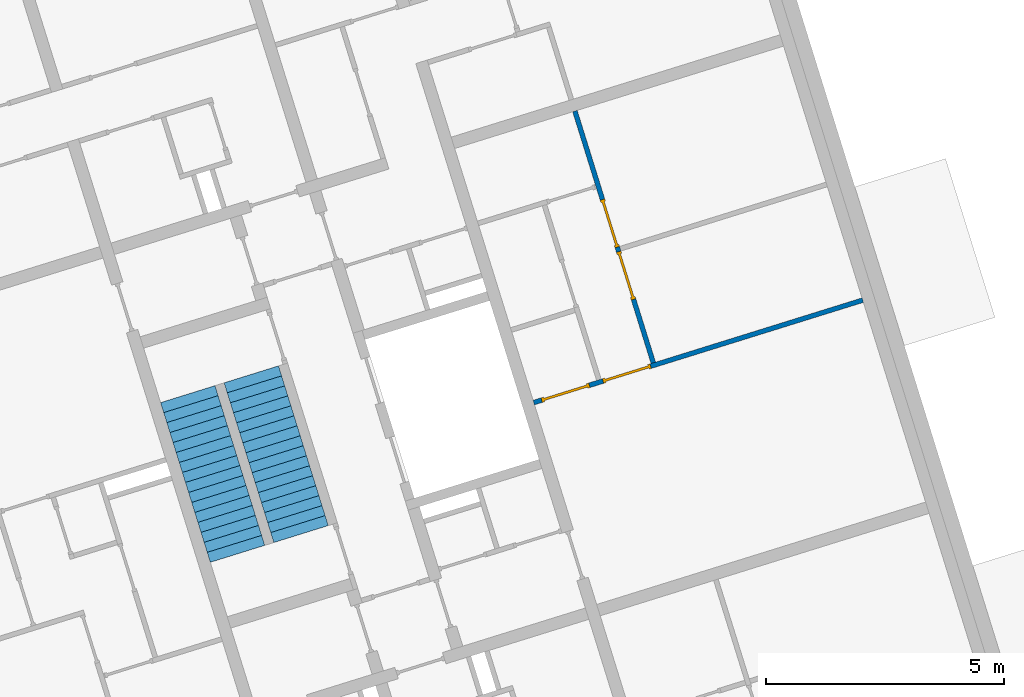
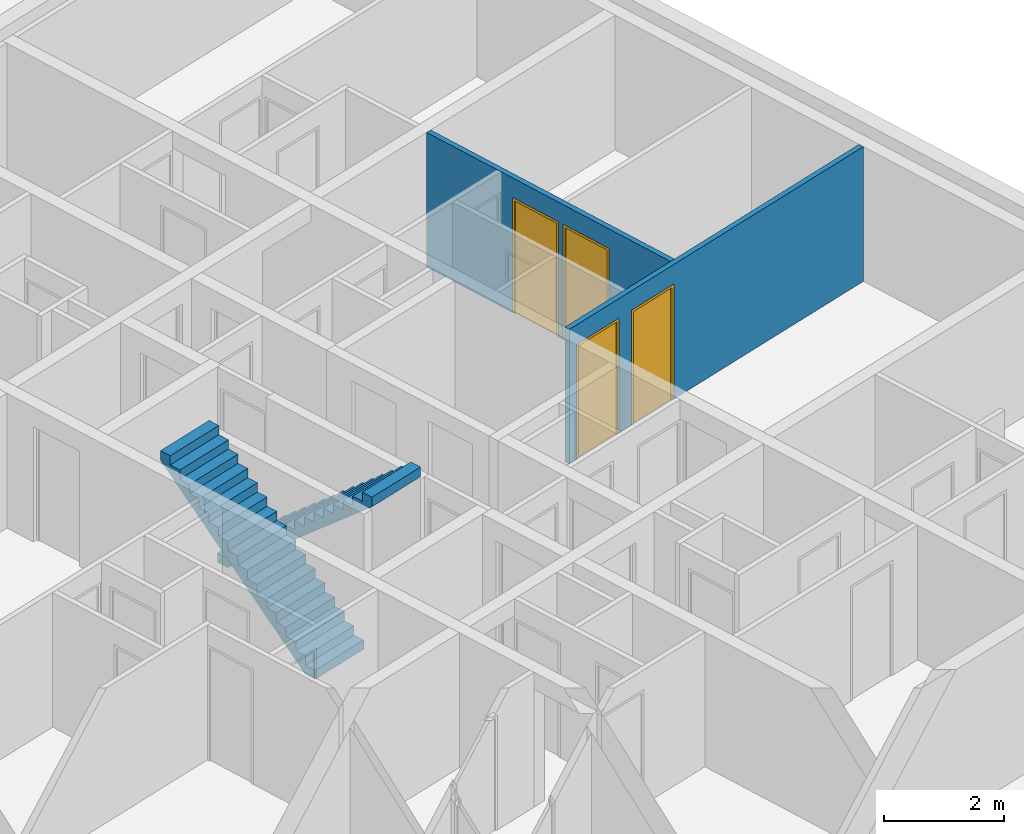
# One storey, part 9 of 9: 4 doors, 2 stair flights, 2 walls, 4 openings, 2 elements without a shape of their own.
"""IFC4 building model written with IfcOpenShell, lengths in metres."""

from ifc_helpers import new_model, entity, si_unit, converted_unit, direction, frame, origin, place, context, subcontext, project, spatial, indexed_curve, outline, extrude, polygons, source, transform, mapped, material, constituent, constituent_set, type_object, type_shapes, element, fill, aggregate, save


model = new_model("IFC4")

# Units and contexts
model_context = context("Model", 3, precision=1e-05, world=origin(), true_north=direction((6.12323399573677e-17, 1.0)))
body_context = subcontext(model_context, "Body", "Model", "MODEL_VIEW")
ifc_project = project(units=[si_unit("LENGTHUNIT", "METRE"), si_unit("AREAUNIT", "SQUARE_METRE"), converted_unit("PLANEANGLEUNIT", "DEGREE", entity("IfcPlaneAngleMeasure", 0.0174532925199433), si_unit("PLANEANGLEUNIT", "RADIAN"), dimensions=[0, 0, 0, 0, 0, 0, 0]), si_unit("VOLUMEUNIT", "CUBIC_METRE")], contexts=[model_context])

# Site, building, storey
site_placement = place(None, frame((13.1347999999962, 11.9886000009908, 0.0), z_axis=(0.0, 0.0, 1.0), x_axis=(0.954770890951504, 0.297342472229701, 0.0)))
site = spatial("IfcSite", under=ifc_project, at=site_placement, Name="Schiehaven", CompositionType="ELEMENT")
building_placement = place(site_placement, origin())
building = spatial("IfcBuilding", under=site, at=building_placement, Name="VORM huis", CompositionType="ELEMENT")
storey_placement = place(building_placement, frame((0.0, 0.0, 6.9)))
storey = spatial("IfcBuildingStorey", under=building, at=storey_placement, Name="02 tweede verdieping", CompositionType="ELEMENT", Elevation=6.9)

# Wall, openings, doors
ifc_material_1 = material(Name="ntb_ntb_ntb", Category="Miscellaneous")
wall_type = type_object("IfcWallType", Name="Basic Wall:22_WA_afbouw_binnenwand 100mm_gen", PredefinedType="STANDARD")
wall_1_placement = place(storey_placement, frame((72.6228357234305, 16.4749999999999, 0.0)))
wall_1 = element("IfcWall", 1, at=wall_1_placement, inside=storey, type_object=wall_type, material=ifc_material_1, Name="Binnenwand", ObjectType="Wand", PredefinedType="NOTDEFINED", context=body_context, shape_type="Tessellation", body=[
    polygons([(-3.00038679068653e-15, -0.0499999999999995, 1.08286712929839e-15), (0.176082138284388, -0.0499999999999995, 1.08286712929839e-15), (0.176082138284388, -0.0499999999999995, 2.34999999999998), (1.22608213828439, -0.0499999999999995, 2.34999999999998), (1.22608213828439, -0.0499999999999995, 1.08286712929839e-15), (1.52716427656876, -0.0499999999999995, 1.08286712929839e-15), (1.52716427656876, -0.0499999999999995, 2.34999999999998), (2.57716427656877, -0.0499999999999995, 2.34999999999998), (2.57716427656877, -0.0499999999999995, 1.08286712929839e-15), (7.25216427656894, -0.0499999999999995, 1.08286712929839e-15), (7.25216427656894, -0.0499999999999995, 2.75), (-3.00038679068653e-15, -0.0499999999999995, 2.75), (0.176082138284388, 0.0499999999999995, 2.34999999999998), (0.176082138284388, 0.0499999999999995, 1.08286712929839e-15), (-2.70219966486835e-15, 0.0499999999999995, 1.08286712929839e-15), (-2.70219966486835e-15, 0.0499999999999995, 2.75), (1.40216427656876, 0.0499999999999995, 2.75), (1.50216427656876, 0.0499999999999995, 2.75), (2.60216427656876, 0.0499999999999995, 2.75), (2.70216427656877, 0.0499999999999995, 2.75), (7.25216427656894, 0.0499999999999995, 2.75), (7.25216427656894, 0.0499999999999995, 1.08286712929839e-15), (2.70216427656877, 0.0499999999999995, 0.0), (2.60216427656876, 0.0499999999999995, 0.0), (2.57716427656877, 0.0499999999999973, 1.08286712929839e-15), (2.57716427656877, 0.0499999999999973, 2.34999999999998), (1.52716427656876, 0.0499999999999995, 2.34999999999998), (1.52716427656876, 0.0499999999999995, 1.08286712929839e-15), (1.50216427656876, 0.0499999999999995, 0.0), (1.40216427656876, 0.0499999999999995, 0.0), (1.22608213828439, 0.0499999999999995, 1.08286712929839e-15), (1.22608213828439, 0.0499999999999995, 2.34999999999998)], [[[1, 2, 3, 4, 5, 6, 7, 8, 9, 10, 11, 12]], [[13, 14, 15, 16, 17, 18, 19, 20, 21, 22, 23, 24, 25, 26, 27, 28, 29, 30, 31, 32]], [[15, 14, 2, 1]], [[11, 10, 22, 21]], [[12, 11, 21, 20, 19, 18, 17, 16]], [[1, 12, 16, 15]], [[9, 8, 26, 25]], [[7, 6, 28, 27]], [[8, 7, 27, 26]], [[5, 4, 32, 31]], [[3, 2, 14, 13]], [[4, 3, 13, 32]], [[31, 30, 29, 28, 6, 5]], [[25, 24, 23, 22, 10, 9]]], closed=True),
])
opening_1_placement = place(wall_1_placement, frame((2.57716427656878, 0.0500000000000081, 0.0)))
opening_1 = element("IfcOpeningElement", 2, at=opening_1_placement, cuts=wall_1, Name="Binnendeur", PredefinedType="OPENING", context=body_context, shape_type="SweptSolid", body=[
    extrude(outline(indexed_curve([(2.34999999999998, 0.0), (2.34999999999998, 1.05), (0.0, 1.05), (0.0, 0.0), (2.34999999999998, 0.0)], self_intersect=False)), frame((0.0, 0.0, 0.0), z_axis=(0.0, -1.0, 0.0), x_axis=(0.0, 0.0, 1.0)), (0.0, 0.0, 1.0), 0.1),
])
opening_2_placement = place(wall_1_placement, frame((1.22608213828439, 0.0500000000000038, 0.0)))
opening_2 = element("IfcOpeningElement", 3, at=opening_2_placement, cuts=wall_1, Name="Binnendeur", PredefinedType="OPENING", context=body_context, shape_type="SweptSolid", body=[
    extrude(outline(indexed_curve([(2.34999999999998, 0.0), (2.34999999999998, 1.05), (0.0, 1.05), (0.0, 0.0), (2.34999999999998, 0.0)], self_intersect=False)), frame((0.0, 0.0, 0.0), z_axis=(0.0, -1.0, 0.0), x_axis=(0.0, 0.0, 1.0)), (0.0, 0.0, 1.0), 0.1),
])
ifc_material_2 = material(Name="PD_a_binnenwandopeningen", Category="Miscellaneous")
ifc_constituent_1 = constituent(ifc_material_2, Name="PD_a_binnenwandopeningen", Category="Miscellaneous")
ifc_material_3 = material(Name="metaal_aluminium_ntb", Category="Miscellaneous")
ifc_constituent_2 = constituent(ifc_material_3, Name="metaal_aluminium_ntb", Category="Miscellaneous")
ifc_constituent_set_1 = constituent_set(constituents=[ifc_constituent_1, ifc_constituent_2])
ifc_constituent_3 = constituent(ifc_material_2, Name="PD_a_binnenwandopeningen", Category="Miscellaneous")
ifc_constituent_4 = constituent(ifc_material_3, Name="Panel", Category="Miscellaneous")
ifc_constituent_set_2 = constituent_set(constituents=[ifc_constituent_3, ifc_constituent_4])
door_type = type_object("IfcDoorType", Name="32_DO_binnendeur enkel:binnendeur", OperationType="REVOLVING", PredefinedType="DOOR", material=ifc_constituent_set_2)
shared_shape = source(origin(), body_context, "Body", "SweptSolid", [
    extrude(outline(indexed_curve([(0.475, -1.16249999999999), (0.525, -1.16249999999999), (0.525, 1.18749999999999), (-0.525, 1.18749999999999), (-0.525, -1.16249999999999), (-0.475, -1.16249999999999), (-0.475, 1.13749999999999), (0.475, 1.13749999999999), (0.475, -1.16249999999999)], self_intersect=False)), frame((0.525000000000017, 0.100000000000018, 1.16249999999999), z_axis=(0.0, -1.0, 0.0), x_axis=(1.0, 0.0, 0.0)), (0.0, 0.0, 1.0), 0.1),
    extrude(outline(indexed_curve([(-0.475, -0.025), (0.475, -0.025), (0.475, 0.025), (-0.475, 0.025), (-0.475, -0.025)], self_intersect=False)), frame((0.525000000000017, 0.0499999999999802, 0.0)), (0.0, 0.0, 1.0), 2.29999999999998),
])
type_shapes(door_type, [shared_shape])
door_1_placement = place(opening_1_placement, frame((0.0, 0.0, 0.0), z_axis=(0.0, 0.0, 1.0), x_axis=(-1.0, 0.0, 0.0)))
door_1 = element("IfcDoor", 4, at=door_1_placement, inside=storey, type_object=door_type, material=ifc_constituent_set_1, Name="Binnendeur", ObjectType="Deur", OperationType="REVOLVING", OverallHeight=2.34999999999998, OverallWidth=1.05, PredefinedType="DOOR", context=body_context, shape_type="MappedRepresentation", body=[
    mapped(shared_shape, transform((0.0, 0.0, 0.0), scale=1.0)),
])
fill(opening_1, door_1)
ifc_constituent_5 = constituent(ifc_material_2, Name="PD_a_binnenwandopeningen", Category="Miscellaneous")
ifc_constituent_6 = constituent(ifc_material_3, Name="metaal_aluminium_ntb", Category="Miscellaneous")
ifc_constituent_set_3 = constituent_set(constituents=[ifc_constituent_5, ifc_constituent_6])
door_2_placement = place(opening_2_placement, frame((0.0, 0.0, 0.0), z_axis=(0.0, 0.0, 1.0), x_axis=(-1.0, 0.0, 0.0)))
door_2 = element("IfcDoor", 5, at=door_2_placement, inside=storey, type_object=door_type, material=ifc_constituent_set_3, Name="Binnendeur", ObjectType="Deur", OperationType="REVOLVING", OverallHeight=2.34999999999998, OverallWidth=1.05, PredefinedType="DOOR", context=body_context, shape_type="MappedRepresentation", body=[
    mapped(shared_shape, transform((0.0, 0.0, 0.0), scale=1.0)),
])
fill(opening_2, door_2)

wall_2_placement = place(storey_placement, frame((75.2749999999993, 22.075, 0.0), z_axis=(0.0, 0.0, 1.0), x_axis=(0.0, -1.0, 0.0)))
wall_2 = element("IfcWall", 6, at=wall_2_placement, inside=storey, type_object=wall_type, material=ifc_material_1, Name="Binnenwand", ObjectType="Wand", PredefinedType="NOTDEFINED", context=body_context, shape_type="Tessellation", body=[
    polygons([(3.00000000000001, -0.0500000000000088, 1.08286712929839e-15), (3.10000000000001, -0.0500000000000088, 1.08286712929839e-15), (3.10000000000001, -0.0500000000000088, 2.34999999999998), (4.15000000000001, -0.0500000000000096, 2.34999999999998), (4.15000000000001, -0.0500000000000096, 1.08286712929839e-15), (5.55000000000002, -0.0500000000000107, 1.08286712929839e-15), (5.55000000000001, -0.0500000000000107, 2.75), (1.70000000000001, -0.0500000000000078, 2.75), (1.60000000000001, -0.0500000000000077, 2.75), (0.0, -0.0500000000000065, 2.75), (0.0, -0.0500000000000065, 1.08286712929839e-15), (1.60000000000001, -0.0500000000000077, 0.0), (1.70000000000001, -0.0500000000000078, 0.0), (1.95, -0.050000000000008, 1.08286712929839e-15), (1.95000000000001, -0.050000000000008, 2.34999999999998), (3.00000000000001, -0.0500000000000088, 2.34999999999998), (3.10000000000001, 0.0500000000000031, 2.34999999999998), (3.10000000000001, 0.0500000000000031, 1.08286712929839e-15), (3.00000000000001, 0.0500000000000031, 1.08286712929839e-15), (3.00000000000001, 0.0500000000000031, 2.34999999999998), (1.95000000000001, 0.0500000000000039, 2.34999999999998), (1.95, 0.0500000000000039, 1.08286712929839e-15), (0.0, 0.0500000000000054, 1.08286712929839e-15), (0.0, 0.0500000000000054, 2.75), (3.00000000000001, 0.0499999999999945, 2.75), (3.10000000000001, 0.0499999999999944, 2.75), (5.55000000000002, 0.0500000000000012, 2.75), (5.55000000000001, 0.0500000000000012, 1.08286712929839e-15), (4.15000000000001, 0.0500000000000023, 1.08286712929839e-15), (4.15000000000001, 0.0500000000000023, 2.34999999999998)], [[[1, 2, 3, 4, 5, 6, 7, 8, 9, 10, 11, 12, 13, 14, 15, 16]], [[17, 18, 19, 20, 21, 22, 23, 24, 25, 26, 27, 28, 29, 30]], [[11, 23, 22, 14, 13, 12]], [[10, 9, 8, 7, 27, 26, 25, 24]], [[11, 10, 24, 23]], [[16, 20, 19, 1]], [[21, 15, 14, 22]], [[20, 16, 15, 21]], [[7, 6, 28, 27]], [[5, 4, 30, 29]], [[3, 2, 18, 17]], [[4, 3, 17, 30]], [[19, 18, 2, 1]], [[29, 28, 6, 5]]], closed=True),
])
opening_3_placement = place(wall_2_placement, frame((3.0, 0.0500000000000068, 0.0)))
opening_3 = element("IfcOpeningElement", 7, at=opening_3_placement, cuts=wall_2, Name="Binnendeur", PredefinedType="OPENING", context=body_context, shape_type="SweptSolid", body=[
    extrude(outline(indexed_curve([(2.34999999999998, 6.11348705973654e-31), (2.34999999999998, 1.05), (0.0, 1.05), (0.0, 6.11348705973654e-31), (2.34999999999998, 6.11348705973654e-31)], self_intersect=False)), frame((0.0, 0.0, 0.0), z_axis=(0.0, -1.0, 0.0), x_axis=(0.0, 0.0, 1.0)), (0.0, 0.0, 1.0), 0.1),
])
opening_4_placement = place(wall_2_placement, frame((4.15000000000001, 0.0500000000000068, 0.0)))
opening_4 = element("IfcOpeningElement", 8, at=opening_4_placement, cuts=wall_2, Name="Binnendeur", PredefinedType="OPENING", context=body_context, shape_type="SweptSolid", body=[
    extrude(outline(indexed_curve([(2.34999999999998, 1.08286712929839e-15), (2.34999999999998, 1.05), (0.0, 1.05), (0.0, 1.08286712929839e-15), (2.34999999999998, 1.08286712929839e-15)], self_intersect=False)), frame((0.0, 0.0, 0.0), z_axis=(0.0, -1.0, 0.0), x_axis=(0.0, 0.0, 1.0)), (0.0, 0.0, 1.0), 0.1),
])
ifc_constituent_7 = constituent(ifc_material_2, Name="PD_a_binnenwandopeningen", Category="Miscellaneous")
ifc_constituent_8 = constituent(ifc_material_3, Name="metaal_aluminium_ntb", Category="Miscellaneous")
ifc_constituent_set_4 = constituent_set(constituents=[ifc_constituent_7, ifc_constituent_8])
door_3_placement = place(opening_3_placement, frame((0.0, 0.0, 0.0), z_axis=(0.0, 0.0, 1.0), x_axis=(-1.0, 0.0, 0.0)))
door_3 = element("IfcDoor", 9, at=door_3_placement, inside=storey, type_object=door_type, material=ifc_constituent_set_4, Name="Binnendeur", ObjectType="Deur", OperationType="REVOLVING", OverallHeight=2.34999999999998, OverallWidth=1.05, PredefinedType="DOOR", context=body_context, shape_type="MappedRepresentation", body=[
    mapped(shared_shape, transform((0.0, 0.0, 0.0), scale=1.0)),
])
fill(opening_3, door_3)
ifc_constituent_9 = constituent(ifc_material_2, Name="PD_a_binnenwandopeningen", Category="Miscellaneous")
ifc_constituent_10 = constituent(ifc_material_3, Name="metaal_aluminium_ntb", Category="Miscellaneous")
ifc_constituent_set_5 = constituent_set(constituents=[ifc_constituent_9, ifc_constituent_10])
door_4_placement = place(opening_4_placement, frame((0.0, 0.0, 0.0), z_axis=(0.0, 0.0, 1.0), x_axis=(-1.0, 0.0, 0.0)))
door_4 = element("IfcDoor", 10, at=door_4_placement, inside=storey, type_object=door_type, material=ifc_constituent_set_5, Name="Binnendeur", ObjectType="Deur", OperationType="REVOLVING", OverallHeight=2.34999999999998, OverallWidth=1.05, PredefinedType="DOOR", context=body_context, shape_type="MappedRepresentation", body=[
    mapped(shared_shape, transform((0.0, 0.0, 0.0), scale=1.0)),
])
fill(opening_4, door_4)

# Stair, stair flight
stair_type = type_object("IfcStairType", Name="Trap", PredefinedType="STRAIGHT_RUN_STAIR")
stair_1_placement = place(storey_placement, origin())
stair_1 = element("IfcStair", 11, at=stair_1_placement, inside=storey, type_object=stair_type, Name="Hoofdtrap", ObjectType="Precast Stair:NLRS_24_STR_reguliere trap-woonfunctie-breedte 1200mm_gen", PredefinedType="STRAIGHT_RUN_STAIR")
ifc_material_4 = material(Name="beton_gewapend_prefab-element", Category="Miscellaneous")
stair_flight_type = type_object("IfcStairFlightType", Name="Monolithic Run:NLRS_24_STRR_trap-beton prefab-monolithisch-recht_gen_rsf", PredefinedType="STRAIGHT")
stair_flight_1_placement = place(stair_1_placement, frame((65.1250000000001, 15.2899999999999, 0.0)))
stair_flight_1 = element("IfcStairFlight", 12, at=stair_flight_1_placement, type_object=stair_flight_type, material=ifc_material_4, Name="Hoofdtrap Run 1", ObjectType="Monolithic Run:NLRS_24_STRR_trap-beton prefab-monolithisch-recht_gen_rsf", PredefinedType="STRAIGHT", context=body_context, shape_type="Tessellation", body=[
    polygons([(0.0, 0.219999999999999, 0.1875), (-1.4210854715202e-14, 1.77635683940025e-15, 0.1875), (1.19999999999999, 1.77635683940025e-15, 0.1875), (1.2, 0.219999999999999, 0.1875), (1.19999999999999, 1.77635683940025e-15, 1.77635683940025e-15), (1.19999999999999, 0.219999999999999, 1.77635683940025e-15), (-1.4210854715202e-14, 1.77635683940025e-15, 1.77635683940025e-15), (-1.4210854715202e-14, 0.219999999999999, 1.77635683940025e-15), (0.0, 0.44, 0.375000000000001), (-1.4210854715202e-14, 0.219999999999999, 0.375000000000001), (1.19999999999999, 0.219999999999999, 0.375000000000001), (1.2, 0.44, 0.375000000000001), (1.19999999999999, 0.231248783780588, 1.77635683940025e-15), (1.19999999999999, 0.44, 0.177912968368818), (-1.4210854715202e-14, 0.44, 0.177912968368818), (-1.4210854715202e-14, 0.231248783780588, 1.77635683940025e-15), (0.0, 0.66, 0.5625), (-1.4210854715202e-14, 0.44, 0.5625), (1.19999999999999, 0.44, 0.5625), (1.2, 0.66, 0.5625), (1.19999999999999, 0.660000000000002, 0.365412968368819), (-1.4210854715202e-14, 0.660000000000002, 0.365412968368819), (0.0, 0.879999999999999, 0.750000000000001), (-1.4210854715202e-14, 0.66, 0.750000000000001), (1.19999999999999, 0.66, 0.750000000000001), (1.2, 0.879999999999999, 0.750000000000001), (1.19999999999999, 0.880000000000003, 0.55291296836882), (-1.4210854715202e-14, 0.880000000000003, 0.55291296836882), (0.0, 1.1, 0.937499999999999), (-1.4210854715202e-14, 0.880000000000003, 0.937500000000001), (1.19999999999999, 0.880000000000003, 0.937500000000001), (1.2, 1.1, 0.937500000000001), (1.19999999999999, 1.1, 0.74041296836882), (-1.4210854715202e-14, 1.1, 0.74041296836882), (0.0, 1.32, 1.125), (-1.4210854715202e-14, 1.1, 1.125), (1.19999999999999, 1.1, 1.125), (1.2, 1.32, 1.125), (1.19999999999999, 1.32, 0.927912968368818), (-1.4210854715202e-14, 1.32, 0.927912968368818), (0.0, 1.54, 1.3125), (-1.4210854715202e-14, 1.32, 1.3125), (1.19999999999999, 1.32, 1.3125), (1.2, 1.54, 1.3125), (1.19999999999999, 1.54, 1.11541296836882), (-1.4210854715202e-14, 1.54, 1.11541296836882), (0.0, 1.76, 1.5), (-1.4210854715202e-14, 1.54, 1.5), (1.19999999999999, 1.54, 1.5), (1.2, 1.76, 1.5), (1.19999999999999, 1.76, 1.30291296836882), (-1.4210854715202e-14, 1.76, 1.30291296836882), (0.0, 1.98, 1.6875), (-1.4210854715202e-14, 1.76, 1.6875), (1.19999999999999, 1.76, 1.6875), (1.2, 1.98, 1.6875), (1.19999999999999, 1.98, 1.49041296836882), (-1.4210854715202e-14, 1.98, 1.49041296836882), (0.0, 2.2, 1.875), (-1.4210854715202e-14, 1.98, 1.875), (1.19999999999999, 1.98, 1.875), (1.2, 2.2, 1.875), (1.19999999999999, 2.2, 1.67791296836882), (-1.4210854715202e-14, 2.2, 1.67791296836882), (0.0, 2.42, 2.0625), (-1.4210854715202e-14, 2.2, 2.0625), (1.19999999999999, 2.2, 2.0625), (1.2, 2.42, 2.0625), (1.19999999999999, 2.42, 1.86541296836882), (-1.4210854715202e-14, 2.42, 1.86541296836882), (0.0, 2.64, 2.25), (-1.4210854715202e-14, 2.42, 2.25), (1.19999999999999, 2.42, 2.25), (1.2, 2.64, 2.25), (1.19999999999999, 2.64, 2.05291296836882), (-1.4210854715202e-14, 2.64, 2.05291296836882), (0.0, 2.86, 2.4375), (-1.4210854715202e-14, 2.64, 2.4375), (1.19999999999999, 2.64, 2.4375), (1.2, 2.86, 2.4375), (1.19999999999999, 2.86, 2.24041296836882), (-1.4210854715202e-14, 2.86, 2.24041296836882), (0.0, 3.07999999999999, 2.625), (-1.4210854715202e-14, 2.86, 2.625), (1.19999999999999, 2.86, 2.625), (1.2, 3.07999999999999, 2.625), (1.19999999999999, 3.08, 2.42791296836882), (-1.4210854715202e-14, 3.08, 2.42791296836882), (-1.4210854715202e-14, 3.29999999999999, 2.8125), (-1.4210854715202e-14, 3.07999999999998, 2.8125), (1.19999999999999, 3.07999999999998, 2.8125), (1.19999999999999, 3.29999999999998, 2.8125), (1.19999999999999, 3.29999999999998, 2.6154129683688), (-1.4210854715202e-14, 3.29999999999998, 2.6154129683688), (-1.4210854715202e-14, 3.52, 3.0), (-1.4210854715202e-14, 3.3, 3.0), (1.19999999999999, 3.3, 3.0), (1.19999999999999, 3.52, 3.0), (1.19999999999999, 3.52, 2.80291296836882), (-1.4210854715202e-14, 3.52, 2.80291296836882)], [[[1, 2, 3, 4]], [[4, 3, 5, 6]], [[3, 2, 7, 5]], [[2, 1, 8, 7]], [[9, 10, 11, 12]], [[4, 6, 13, 14, 12, 11]], [[1, 4, 11, 10]], [[8, 1, 10, 9, 15, 16]], [[17, 18, 19, 20]], [[20, 19, 12, 14, 21]], [[9, 12, 19, 18]], [[18, 17, 22, 15, 9]], [[23, 24, 25, 26]], [[26, 25, 20, 21, 27]], [[17, 20, 25, 24]], [[24, 23, 28, 22, 17]], [[29, 30, 31, 32]], [[32, 31, 26, 27, 33]], [[23, 26, 31, 30]], [[30, 29, 34, 28, 23]], [[35, 36, 37, 38]], [[38, 37, 32, 33, 39]], [[29, 32, 37, 36]], [[36, 35, 40, 34, 29]], [[41, 42, 43, 44]], [[44, 43, 38, 39, 45]], [[35, 38, 43, 42]], [[42, 41, 46, 40, 35]], [[47, 48, 49, 50]], [[50, 49, 44, 45, 51]], [[41, 44, 49, 48]], [[48, 47, 52, 46, 41]], [[53, 54, 55, 56]], [[56, 55, 50, 51, 57]], [[47, 50, 55, 54]], [[54, 53, 58, 52, 47]], [[59, 60, 61, 62]], [[62, 61, 56, 57, 63]], [[53, 56, 61, 60]], [[60, 59, 64, 58, 53]], [[65, 66, 67, 68]], [[68, 67, 62, 63, 69]], [[59, 62, 67, 66]], [[66, 65, 70, 64, 59]], [[71, 72, 73, 74]], [[74, 73, 68, 69, 75]], [[65, 68, 73, 72]], [[72, 71, 76, 70, 65]], [[77, 78, 79, 80]], [[80, 79, 74, 75, 81]], [[71, 74, 79, 78]], [[78, 77, 82, 76, 71]], [[83, 84, 85, 86]], [[86, 85, 80, 81, 87]], [[77, 80, 85, 84]], [[84, 83, 88, 82, 77]], [[89, 90, 91, 92]], [[92, 91, 86, 87, 93]], [[83, 86, 91, 90]], [[90, 89, 94, 88, 83]], [[95, 96, 97, 98]], [[98, 97, 92, 93, 99]], [[89, 92, 97, 96]], [[96, 95, 100, 94, 89]], [[95, 98, 99, 100]], [[7, 8, 16, 13, 6, 5]], [[13, 16, 15, 22, 28, 34, 40, 46, 52, 58, 64, 70, 76, 82, 88, 94, 100, 99, 93, 87, 81, 75, 69, 63, 57, 51, 45, 39, 33, 27, 21, 14]]], closed=True),
])
aggregate(stair_1, [stair_flight_1])

stair_2_placement = place(storey_placement, origin())
stair_2 = element("IfcStair", 13, at=stair_2_placement, inside=storey, type_object=stair_type, Name="Hoofdtrap", ObjectType="Precast Stair:NLRS_24_STR_reguliere trap-woonfunctie-breedte 1200mm_gen", PredefinedType="STRAIGHT_RUN_STAIR")
stair_flight_2_placement = place(stair_2_placement, frame((66.5250000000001, 15.2899999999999, 0.0)))
stair_flight_2 = element("IfcStairFlight", 14, at=stair_flight_2_placement, type_object=stair_flight_type, material=ifc_material_4, Name="Hoofdtrap Run 1", ObjectType="Monolithic Run:NLRS_24_STRR_trap-beton prefab-monolithisch-recht_gen_rsf", PredefinedType="STRAIGHT", context=body_context, shape_type="Tessellation", body=[
    polygons([(1.2, 3.3, 0.1875), (1.2, 3.52, 0.1875), (0.0, 3.52, 0.1875), (0.0, 3.3, 0.1875), (0.0, 3.52, 1.77635683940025e-15), (0.0, 3.3, 1.77635683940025e-15), (1.2, 3.52, 1.77635683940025e-15), (1.2, 3.3, 1.77635683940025e-15), (1.2, 3.08, 0.375000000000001), (1.2, 3.3, 0.375000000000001), (0.0, 3.3, 0.375000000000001), (0.0, 3.08, 0.375000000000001), (0.0, 3.28875121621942, -8.88178419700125e-16), (0.0, 3.08, 0.177912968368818), (1.2, 3.08, 0.177912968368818), (1.2, 3.28875121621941, -8.88178419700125e-16), (1.2, 2.86, 0.5625), (1.2, 3.08, 0.5625), (0.0, 3.08, 0.5625), (0.0, 2.86, 0.5625), (0.0, 2.86, 0.365412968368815), (1.2, 2.86, 0.365412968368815), (1.2, 2.64, 0.750000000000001), (1.2, 2.86, 0.750000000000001), (0.0, 2.86, 0.750000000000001), (0.0, 2.64, 0.750000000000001), (0.0, 2.64, 0.552912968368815), (1.2, 2.64, 0.552912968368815), (1.2, 2.42, 0.937500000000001), (1.2, 2.64, 0.937500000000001), (0.0, 2.64, 0.937500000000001), (0.0, 2.42, 0.937500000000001), (0.0, 2.42, 0.740412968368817), (1.2, 2.42, 0.740412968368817), (1.2, 2.2, 1.125), (1.2, 2.42, 1.125), (0.0, 2.42, 1.125), (0.0, 2.2, 1.125), (0.0, 2.2, 0.927912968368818), (1.2, 2.2, 0.927912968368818), (1.2, 1.98, 1.3125), (1.2, 2.2, 1.3125), (0.0, 2.2, 1.3125), (0.0, 1.98, 1.3125), (0.0, 1.98, 1.11541296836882), (1.2, 1.98, 1.11541296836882), (1.2, 1.76, 1.5), (1.2, 1.98, 1.5), (0.0, 1.98, 1.5), (0.0, 1.76, 1.5), (0.0, 1.76, 1.30291296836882), (1.2, 1.76, 1.30291296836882), (1.2, 1.54, 1.6875), (1.2, 1.76, 1.6875), (0.0, 1.76, 1.6875), (0.0, 1.54, 1.6875), (0.0, 1.54, 1.49041296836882), (1.2, 1.54, 1.49041296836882), (1.2, 1.32, 1.875), (1.2, 1.54, 1.875), (0.0, 1.54, 1.875), (0.0, 1.32, 1.875), (0.0, 1.32, 1.67791296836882), (1.2, 1.32, 1.67791296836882), (1.2, 1.1, 2.0625), (1.2, 1.32, 2.0625), (0.0, 1.32, 2.0625), (0.0, 1.1, 2.0625), (0.0, 1.1, 1.86541296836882), (1.2, 1.1, 1.86541296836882), (1.2, 0.879999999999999, 2.25), (1.2, 1.1, 2.25), (0.0, 1.1, 2.25), (0.0, 0.879999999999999, 2.25), (0.0, 0.880000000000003, 2.05291296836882), (1.2, 0.880000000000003, 2.05291296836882), (1.2, 0.66, 2.4375), (1.2, 0.879999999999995, 2.4375), (0.0, 0.879999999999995, 2.4375), (0.0, 0.66, 2.4375), (0.0, 0.660000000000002, 2.24041296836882), (1.2, 0.660000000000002, 2.24041296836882), (1.2, 0.440000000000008, 2.625), (1.2, 0.66, 2.625), (0.0, 0.66, 2.625), (0.0, 0.440000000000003, 2.625), (0.0, 0.440000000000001, 2.42791296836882), (1.2, 0.440000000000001, 2.42791296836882), (1.2, 0.220000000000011, 2.8125), (1.2, 0.440000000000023, 2.8125), (0.0, 0.440000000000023, 2.8125), (0.0, 0.220000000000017, 2.8125), (0.0, 0.220000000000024, 2.6154129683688), (1.2, 0.220000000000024, 2.6154129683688), (1.2, 1.77635683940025e-15, 3.0), (1.2, 0.219999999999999, 3.0), (0.0, 0.219999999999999, 3.0), (0.0, 1.77635683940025e-15, 3.0), (0.0, 1.77635683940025e-15, 2.80291296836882), (1.2, 1.77635683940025e-15, 2.80291296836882)], [[[1, 2, 3, 4]], [[4, 3, 5, 6]], [[3, 2, 7, 5]], [[2, 1, 8, 7]], [[9, 10, 11, 12]], [[4, 6, 13, 14, 12, 11]], [[1, 4, 11, 10]], [[8, 1, 10, 9, 15, 16]], [[17, 18, 19, 20]], [[20, 19, 12, 14, 21]], [[9, 12, 19, 18]], [[18, 17, 22, 15, 9]], [[23, 24, 25, 26]], [[26, 25, 20, 21, 27]], [[17, 20, 25, 24]], [[24, 23, 28, 22, 17]], [[29, 30, 31, 32]], [[32, 31, 26, 27, 33]], [[23, 26, 31, 30]], [[30, 29, 34, 28, 23]], [[35, 36, 37, 38]], [[38, 37, 32, 33, 39]], [[29, 32, 37, 36]], [[36, 35, 40, 34, 29]], [[41, 42, 43, 44]], [[44, 43, 38, 39, 45]], [[35, 38, 43, 42]], [[42, 41, 46, 40, 35]], [[47, 48, 49, 50]], [[50, 49, 44, 45, 51]], [[41, 44, 49, 48]], [[48, 47, 52, 46, 41]], [[53, 54, 55, 56]], [[56, 55, 50, 51, 57]], [[47, 50, 55, 54]], [[54, 53, 58, 52, 47]], [[59, 60, 61, 62]], [[62, 61, 56, 57, 63]], [[53, 56, 61, 60]], [[60, 59, 64, 58, 53]], [[65, 66, 67, 68]], [[68, 67, 62, 63, 69]], [[59, 62, 67, 66]], [[66, 65, 70, 64, 59]], [[71, 72, 73, 74]], [[74, 73, 68, 69, 75]], [[65, 68, 73, 72]], [[72, 71, 76, 70, 65]], [[77, 78, 79, 80]], [[80, 79, 74, 75, 81]], [[71, 74, 79, 78]], [[78, 77, 82, 76, 71]], [[83, 84, 85, 86]], [[86, 85, 80, 81, 87]], [[77, 80, 85, 84]], [[84, 83, 88, 82, 77]], [[89, 90, 91, 92]], [[92, 91, 86, 87, 93]], [[83, 86, 91, 90]], [[90, 89, 94, 88, 83]], [[95, 96, 97, 98]], [[98, 97, 92, 93, 99]], [[89, 92, 97, 96]], [[96, 95, 100, 94, 89]], [[95, 98, 99, 100]], [[7, 8, 16, 13, 6, 5]], [[13, 16, 15, 22, 28, 34, 40, 46, 52, 58, 64, 70, 76, 82, 88, 94, 100, 99, 93, 87, 81, 75, 69, 63, 57, 51, 45, 39, 33, 27, 21, 14]]], closed=True),
])
aggregate(stair_2, [stair_flight_2])

save(model, "model.ifc")
